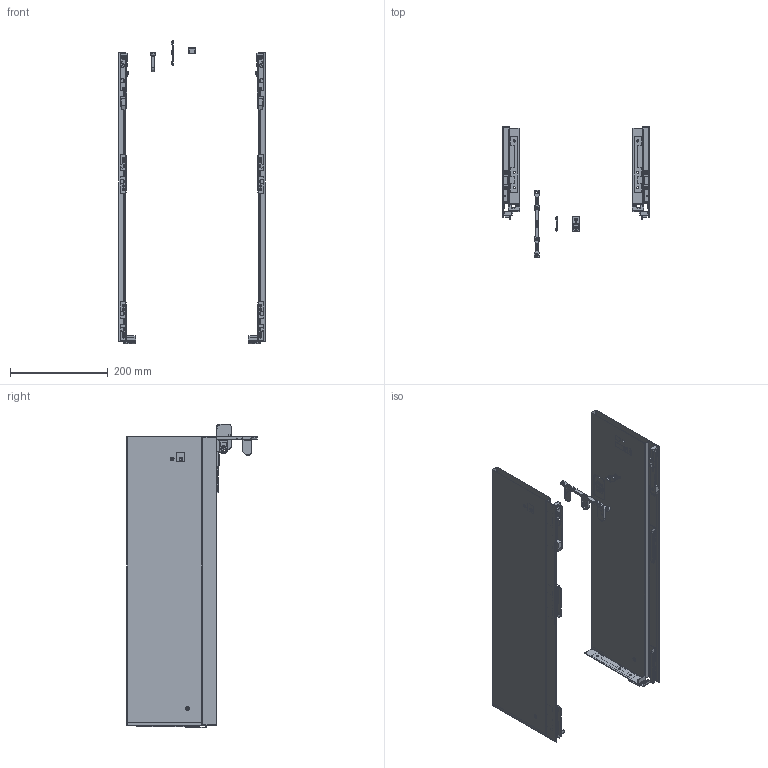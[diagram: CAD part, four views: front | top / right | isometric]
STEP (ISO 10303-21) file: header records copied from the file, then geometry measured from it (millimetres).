
FILE_DESCRIPTION (( 'STEP AP203' ), '1' );
FILE_NAME ('503125.STEP', '2026-02-11T09:39:09', ( '' ), ( '' ), 'SwSTEP 2.0', 'SolidWorks 2025', '' );
FILE_SCHEMA (( 'CONFIG_CONTROL_DESIGN' ));
Length unit declared in the file: millimetre
Products named in the file (6): Bočnice pravá_16-185-600; trn 185; víčko plast 51x30 STRONG; vyztuha dna jednoduchá; Bočnice_16-185-600; 503125
Assembly tree (5 placements, depth 2):
  503125
    Bočnice_16-185-600
    Bočnice pravá_16-185-600
    trn 185
    víčko plast 51x30 STRONG
    vyztuha dna jednoduchá
Bounding box: 300 x 268 x 621.4 mm (x, y, z)
Volume: 380753.5 mm3; surface area: 987112.4 mm2
Topology: 30 solids, 30 shells, 2002 faces, 5358 edges, 3412 vertices
Faces by surface type: plane 1267, cylinder 614, bspline 97, cone 24
Entity records: 65278 total; most frequent: CARTESIAN_POINT 14639, ORIENTED_EDGE 10716, DIRECTION 9974, EDGE_CURVE 5358, VECTOR 3872, LINE 3872, VERTEX_POINT 3412, AXIS2_PLACEMENT_3D 3051
